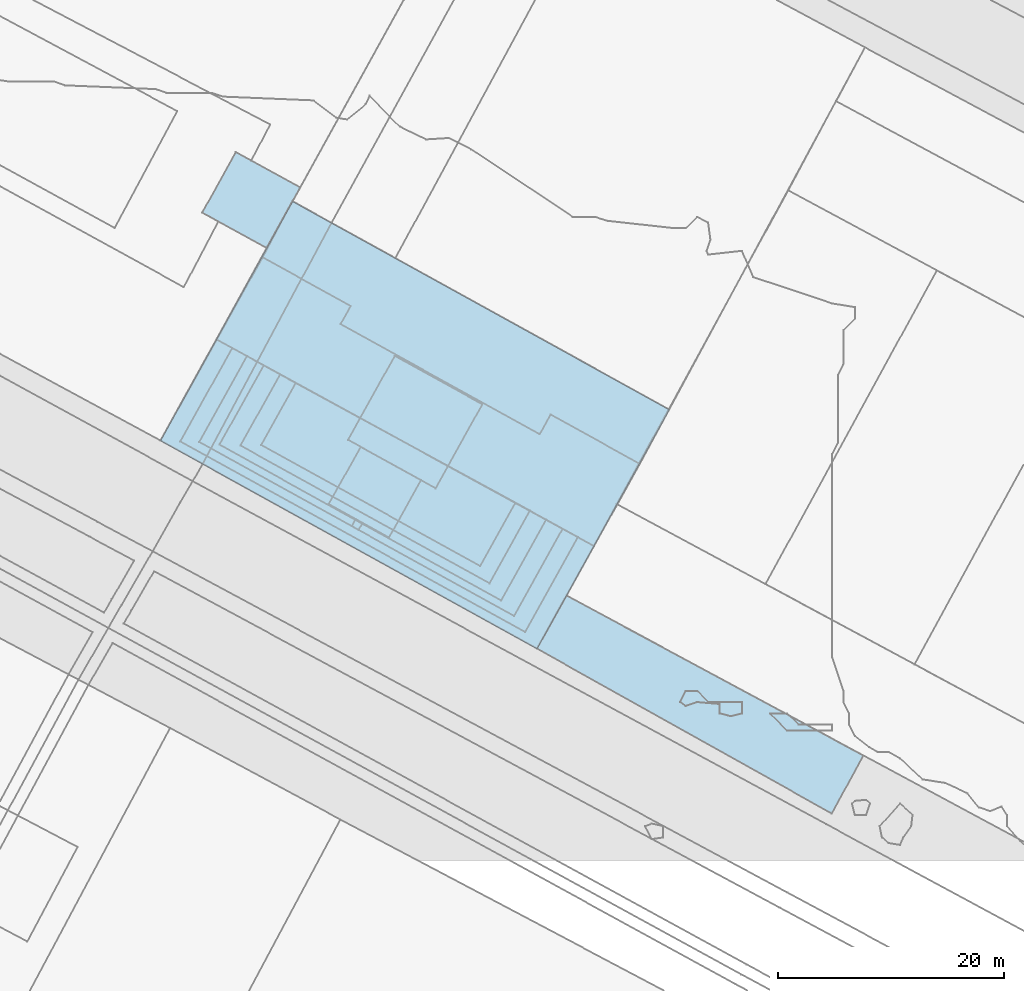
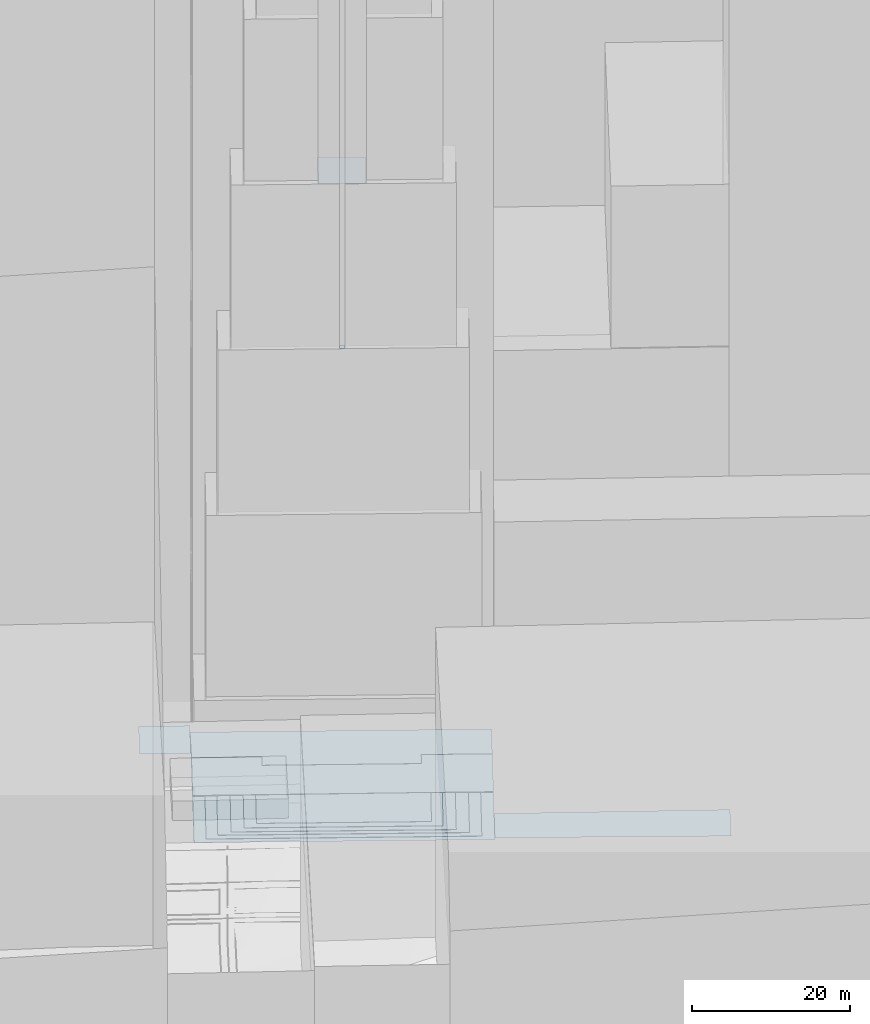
# Not in any storey, part 2 of 76: 14 footings.
"""IFC2X3 model written with IfcOpenShell, lengths in metres."""

from ifc_helpers import new_model, si_unit, frame, origin_with_axes, place, context, subcontext, project, faceted_brep, element, save


model = new_model("IFC2X3")

# Units and contexts
model_context = context("Model", 3, precision=1e-05, world=origin_with_axes())
body_context = subcontext(model_context, "Body", "Model", "MODEL_VIEW")
ifc_project = project(units=[si_unit("AREAUNIT", "SQUARE_METRE"), si_unit("LENGTHUNIT", "METRE")], contexts=[model_context])

# Footings
footing_1_placement = place(None, frame((114.0067788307, 18.7761491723, 19.812011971), z_axis=(0.0, 0.0, 1.0), x_axis=(1.0, 0.0, 0.0)))
element("IfcFooting", 1, at=footing_1_placement, Name="Sol 0", PredefinedType="STRIP_FOOTING", context=body_context, shape_type="Brep", body=[
    faceted_brep([(26.1365112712, -14.6177862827, 0.0), (0.0, 0.0, 0.0), (2.6213710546, 4.7044961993, 0.0), (28.9299641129, -9.4671911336, 0.0)], [[[0, 1, 2]], [[2, 3, 0]]]),
])
footing_2_placement = place(None, frame((80.6336597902, 37.2179875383, 19.5500389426), z_axis=(0.0, 0.0, 1.0), x_axis=(1.0, 0.0, 0.0)))
element("IfcFooting", 2, at=footing_2_placement, Name="Sol 0", PredefinedType="STRIP_FOOTING", context=body_context, shape_type="Brep", body=[
    faceted_brep([(33.3731190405, -18.441838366, 0.0), (0.0, 0.0, 0.0), (11.6985592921, 21.2190134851, 0.0), (45.0971948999, 2.7553209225, 0.0)], [[[0, 1, 2]], [[2, 3, 0]]]),
])
footing_3_placement = place(None, frame((97.2544970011, 37.2888688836, 19.612828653), z_axis=(0.0, 0.0, 1.0), x_axis=(1.0, 0.0, 0.0)))
element("IfcFooting", 3, at=footing_3_placement, Name="Sol 0", PredefinedType="STRIP_FOOTING", context=body_context, shape_type="Brep", body=[
    faceted_brep([(7.7655788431, -4.295199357, 0.0), (0.0, 0.0, 0.0), (4.1512866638, 7.4423095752, 0.0), (11.9084198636, 3.14701657, 0.0)], [[[0, 1, 2]], [[2, 3, 0]]]),
])
footing_4_placement = place(None, frame((85.6283664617, 46.1799867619, 19.6882360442), z_axis=(0.0, 0.0, 1.0), x_axis=(1.0, 0.0, 0.0)))
element("IfcFooting", 4, at=footing_4_placement, Name="Sol 0", PredefinedType="STRIP_FOOTING", context=body_context, shape_type="Brep", body=[
    faceted_brep([(33.4391985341, -18.3189230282, 0.0), (0.0, 0.0, 0.0), (4.0518112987, 7.2857163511, 0.0), (29.5893203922, -6.650770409, 0.0), (37.4908592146, -11.0220874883, 0.0), (11.8682699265, 2.9688959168, 0.0), (10.9668168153, 1.3597031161, 0.0), (28.6218928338, -8.3939587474, 0.0)], [[[0, 1, 2]], [[3, 4, 0]], [[2, 5, 6]], [[7, 3, 0]], [[0, 2, 6]], [[6, 7, 0]]]),
])
footing_5_placement = place(None, frame((89.6801777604, 53.465703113, 19.6964299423), z_axis=(0.0, 0.0, 1.0), x_axis=(1.0, 0.0, 0.0)))
element("IfcFooting", 5, at=footing_5_placement, Name="Sol 0", PredefinedType="STRIP_FOOTING", context=body_context, shape_type="Brep", body=[
    faceted_brep([(7.8164586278, -4.3168204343, 0.0), (0.0, 0.0, 0.0), (2.6520413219, 4.9712979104, 0.0), (24.5700815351, -15.6796750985, 0.0), (6.9150055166, -5.926013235, 0.0), (36.0506769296, -13.4923946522, 0.0), (33.4390479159, -18.3078038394, 0.0), (25.5375090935, -13.9364867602, 0.0)], [[[0, 1, 2]], [[3, 4, 0]], [[5, 6, 7]], [[0, 2, 5]], [[7, 3, 0]], [[0, 5, 7]]]),
])
footing_6_placement = place(None, frame((84.3328700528, 57.422623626, 19.717099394), z_axis=(0.0, 0.0, 1.0), x_axis=(1.0, 0.0, 0.0)))
element("IfcFooting", 6, at=footing_6_placement, Name="Sol 0", PredefinedType="STRIP_FOOTING", context=body_context, shape_type="Brep", body=[
    faceted_brep([(5.7007108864, -3.131250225, 0.0), (0.0, 0.0, 0.0), (2.9850231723, 5.3748435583, 0.0), (8.685731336, 2.2435956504, 0.0)], [[[0, 1, 2]], [[2, 3, 0]]]),
])
footing_7_placement = place(None, frame((89.5609801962, 36.8331506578, 19.6677865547), z_axis=(0.0, 0.0, 1.0), x_axis=(1.0, 0.0, 0.0)))
element("IfcFooting", 7, at=footing_7_placement, Name="Sol 0", PredefinedType="STRIP_FOOTING", context=body_context, shape_type="Brep", body=[
    faceted_brep([(19.4138892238, -10.7324529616, 0.0), (0.0, 0.0, 0.0), (3.0597039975, 5.4867351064, 0.0), (22.5396898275, -5.1228171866, 0.0)], [[[0, 1, 2]], [[2, 3, 0]]]),
])
footing_8_placement = place(None, frame((87.7213295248, 36.7784814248, 19.6583385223), z_axis=(0.0, 0.0, 1.0), x_axis=(1.0, 0.0, 0.0)))
element("IfcFooting", 8, at=footing_8_placement, Name="Sol 0", PredefinedType="STRIP_FOOTING", context=body_context, shape_type="Brep", body=[
    faceted_brep([(24.3793404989, -5.0681479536, 0.0), (25.6622439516, -5.774892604, 0.0), (22.0733143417, -12.2114746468, 0.0), (3.514524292, 6.3024800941, 0.0), (4.8993546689, 5.5414043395, 0.0), (1.8396506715, 0.054669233, 0.0), (21.2535398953, -10.6777837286, 0.0), (0.0, 0.0, 0.0)], [[[0, 1, 2]], [[3, 4, 5]], [[6, 0, 2]], [[7, 3, 5]], [[6, 2, 7]], [[7, 5, 6]]]),
])
footing_9_placement = place(None, frame((85.863250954, 36.8568256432, 19.6310872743), z_axis=(0.0, 0.0, 1.0), x_axis=(1.0, 0.0, 0.0)))
element("IfcFooting", 9, at=footing_9_placement, Name="Sol 0", PredefinedType="STRIP_FOOTING", context=body_context, shape_type="Brep", body=[
    faceted_brep([(27.5203225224, -5.8532368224, 0.0), (28.9646281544, -6.6469244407, 0.0), (24.9704931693, -13.8098599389, 0.0), (3.9197328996, 7.0288307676, 0.0), (5.3726028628, 6.2241358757, 0.0), (1.8580785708, -0.0783442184, 0.0), (23.9313929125, -12.2898188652, 0.0), (0.0, 0.0, 0.0)], [[[0, 1, 2]], [[3, 4, 5]], [[6, 0, 2]], [[7, 3, 5]], [[6, 2, 7]], [[7, 5, 6]]]),
])
footing_10_placement = place(None, frame((80.6336597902, 37.2179875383, 19.5500389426), z_axis=(0.0, 0.0, 1.0), x_axis=(1.0, 0.0, 0.0)))
element("IfcFooting", 10, at=footing_10_placement, Name="Sol 0", PredefinedType="STRIP_FOOTING", context=body_context, shape_type="Brep", body=[
    faceted_brep([(37.006479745, -8.5630409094, 0.0), (38.4339052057, -9.3569238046, 0.0), (33.3731190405, -18.441838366, 0.0), (4.9947066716, 8.9619992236, 0.0), (6.3625259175, 8.2118271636, 0.0), (1.7566630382, -0.0684208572, 0.0), (32.3260927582, -16.9662987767, 0.0), (0.0, 0.0, 0.0)], [[[0, 1, 2]], [[3, 4, 5]], [[6, 0, 2]], [[7, 3, 5]], [[6, 2, 7]], [[7, 5, 6]]]),
])
footing_11_placement = place(None, frame((95.5478595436, 31.5958001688, 119.6064738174), z_axis=(0.0, 0.0, 1.0), x_axis=(1.0, 0.0, 0.0)))
element("IfcFooting", 11, at=footing_11_placement, Name="Sol 0", PredefinedType="STRIP_FOOTING", context=body_context, shape_type="Brep", body=[
    faceted_brep([(5.335986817, -2.9800465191, 0.0), (0.0, 0.0, 0.0), (2.8367063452, 5.0622623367, 0.0), (8.1807445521, 2.1156181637, 0.0)], [[[0, 1, 2]], [[2, 3, 0]]]),
])
footing_12_placement = place(None, frame((84.0707632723, 37.1024656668, 19.6050347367), z_axis=(0.0, 0.0, 1.0), x_axis=(1.0, 0.0, 0.0)))
element("IfcFooting", 12, at=footing_12_placement, Name="Sol 0", PredefinedType="STRIP_FOOTING", context=body_context, shape_type="Brep", body=[
    faceted_brep([(30.757115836, -6.8925644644, 0.0), (32.2099912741, -7.6972545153, 0.0), (27.9101325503, -15.4299566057, 0.0), (4.233900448, 7.5986926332, 0.0), (5.7122205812, 6.783190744, 0.0), (1.7924876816, -0.2456400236, 0.0), (26.7629808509, -14.0554999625, 0.0), (0.0, 0.0, 0.0)], [[[0, 1, 2]], [[3, 4, 5]], [[6, 0, 2]], [[7, 3, 5]], [[6, 2, 7]], [[7, 5, 6]]]),
])
footing_13_placement = place(None, frame((82.3903228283, 37.1495666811, 19.5783829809), z_axis=(0.0, 0.0, 1.0), x_axis=(1.0, 0.0, 0.0)))
element("IfcFooting", 13, at=footing_13_placement, Name="Sol 0", PredefinedType="STRIP_FOOTING", context=body_context, shape_type="Brep", body=[
    faceted_brep([(33.8904317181, -7.7443555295, 0.0), (35.2498167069, -8.4946200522, 0.0), (30.5694297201, -16.8978779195, 0.0), (4.6058628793, 8.2802480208, 0.0), (5.914340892, 7.5515916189, 0.0), (1.680440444, -0.0471010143, 0.0), (29.5905729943, -15.47705762, 0.0), (0.0, 0.0, 0.0)], [[[0, 1, 2]], [[3, 4, 5]], [[6, 0, 2]], [[7, 3, 5]], [[6, 2, 7]], [[7, 5, 6]]]),
])
footing_14_placement = place(None, frame((97.5797854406, 29.6320950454, 94.6297663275), z_axis=(0.0, 0.0, 1.0), x_axis=(1.0, 0.0, 0.0)))
element("IfcFooting", 14, at=footing_14_placement, Name="Sol 0", PredefinedType="STRIP_FOOTING", context=body_context, shape_type="Brep", body=[
    faceted_brep([(0.6117158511, -0.3370655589, 0.0), (0.0, 0.0, 0.0), (0.3557240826, 0.6258571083, 0.0), (0.9674399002, 0.2887915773, 0.0)], [[[0, 1, 2]], [[2, 3, 0]]]),
])

save(model, "model.ifc")
